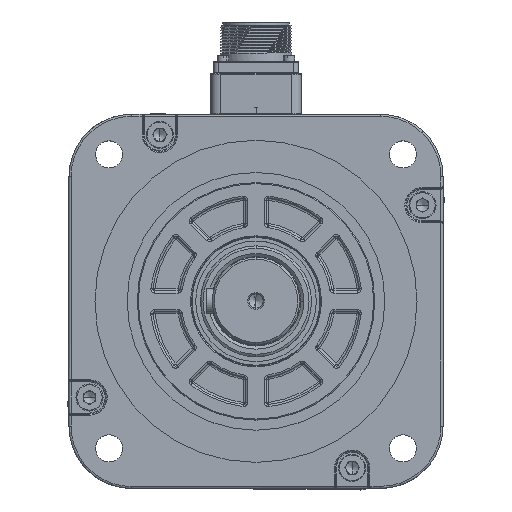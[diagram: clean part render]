
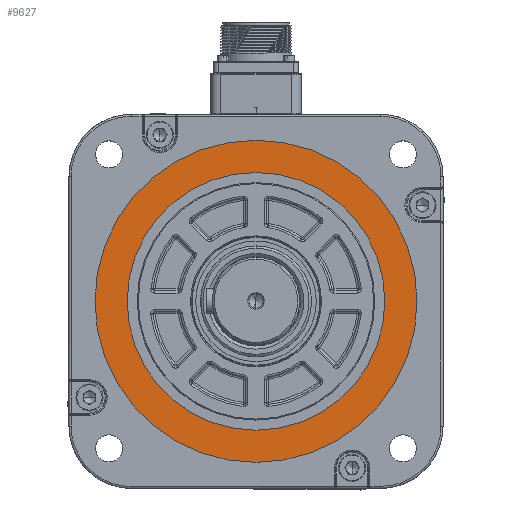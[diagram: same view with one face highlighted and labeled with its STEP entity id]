
A CAD part, top view. The second image highlights one B-rep face of the part: STEP entity #9627.
In plain terms, the highlighted planar face has unit normal (0, 0, 1) as drawn and (0, 0, -1) by its records, which use the part's own axes.
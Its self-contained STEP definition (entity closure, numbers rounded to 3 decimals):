
#1576 = EDGE_CURVE ( 'NONE', #33712, #41875, #88064, .T. ) ;
#2399 = CARTESIAN_POINT ( 'NONE',  ( -77.5, 0., 1.5 ) ) ;
#3943 = AXIS2_PLACEMENT_3D ( 'NONE', #109659, #144204, #96471 ) ;
#9627 = ADVANCED_FACE ( 'NONE', ( #96990, #142453 ), #21773, .T. ) ;
#10150 = DIRECTION ( 'NONE',  ( 0., 0., -1. ) ) ;
#21773 = PLANE ( 'NONE',  #74058 ) ;
#28968 = CIRCLE ( 'NONE', #149195, 77.5 ) ;
#33712 = VERTEX_POINT ( 'NONE', #2399 ) ;
#36316 = DIRECTION ( 'NONE',  ( 0., 0., 1. ) ) ;
#41875 = VERTEX_POINT ( 'NONE', #90424 ) ;
#46083 = DIRECTION ( 'NONE',  ( -1., 0., 0. ) ) ;
#54554 = EDGE_LOOP ( 'NONE', ( #113707, #105605 ) ) ;
#55808 = DIRECTION ( 'NONE',  ( -1., 0., 0. ) ) ;
#58824 = CARTESIAN_POINT ( 'NONE',  ( 0., 0., 1.5 ) ) ;
#61793 = VERTEX_POINT ( 'NONE', #122723 ) ;
#69678 = ORIENTED_EDGE ( 'NONE', *, *, #101914, .T. ) ;
#71264 = CIRCLE ( 'NONE', #136967, 62. ) ;
#74058 = AXIS2_PLACEMENT_3D ( 'NONE', #79595, #10150, #55808 ) ;
#79595 = CARTESIAN_POINT ( 'NONE',  ( 0., 0., 1.5 ) ) ;
#80517 = EDGE_LOOP ( 'NONE', ( #123834, #69678 ) ) ;
#88064 = CIRCLE ( 'NONE', #101726, 77.5 ) ;
#89067 = VERTEX_POINT ( 'NONE', #139836 ) ;
#90424 = CARTESIAN_POINT ( 'NONE',  ( 77.5, 0., 1.5 ) ) ;
#96471 = DIRECTION ( 'NONE',  ( -1., 0., 0. ) ) ;
#96990 = FACE_OUTER_BOUND ( 'NONE', #80517, .T. ) ;
#101726 = AXIS2_PLACEMENT_3D ( 'NONE', #103676, #114332, #46083 ) ;
#101914 = EDGE_CURVE ( 'NONE', #41875, #33712, #28968, .T. ) ;
#103676 = CARTESIAN_POINT ( 'NONE',  ( 0., 0., 1.5 ) ) ;
#104310 = DIRECTION ( 'NONE',  ( -1., 0., 0. ) ) ;
#105605 = ORIENTED_EDGE ( 'NONE', *, *, #124716, .T. ) ;
#107764 = DIRECTION ( 'NONE',  ( 0., 0., -1. ) ) ;
#109659 = CARTESIAN_POINT ( 'NONE',  ( 0., 0., 1.5 ) ) ;
#113707 = ORIENTED_EDGE ( 'NONE', *, *, #124497, .T. ) ;
#114332 = DIRECTION ( 'NONE',  ( 0., 0., -1. ) ) ;
#122723 = CARTESIAN_POINT ( 'NONE',  ( 62., 0., 1.5 ) ) ;
#123834 = ORIENTED_EDGE ( 'NONE', *, *, #1576, .T. ) ;
#124497 = EDGE_CURVE ( 'NONE', #89067, #61793, #71264, .T. ) ;
#124716 = EDGE_CURVE ( 'NONE', #61793, #89067, #138140, .T. ) ;
#136967 = AXIS2_PLACEMENT_3D ( 'NONE', #58824, #36316, #104310 ) ;
#138140 = CIRCLE ( 'NONE', #3943, 62. ) ;
#139836 = CARTESIAN_POINT ( 'NONE',  ( -62., 0., 1.5 ) ) ;
#141824 = DIRECTION ( 'NONE',  ( -1., 0., 0. ) ) ;
#142306 = CARTESIAN_POINT ( 'NONE',  ( 0., 0., 1.5 ) ) ;
#142453 = FACE_BOUND ( 'NONE', #54554, .T. ) ;
#144204 = DIRECTION ( 'NONE',  ( 0., 0., 1. ) ) ;
#149195 = AXIS2_PLACEMENT_3D ( 'NONE', #142306, #107764, #141824 ) ;
